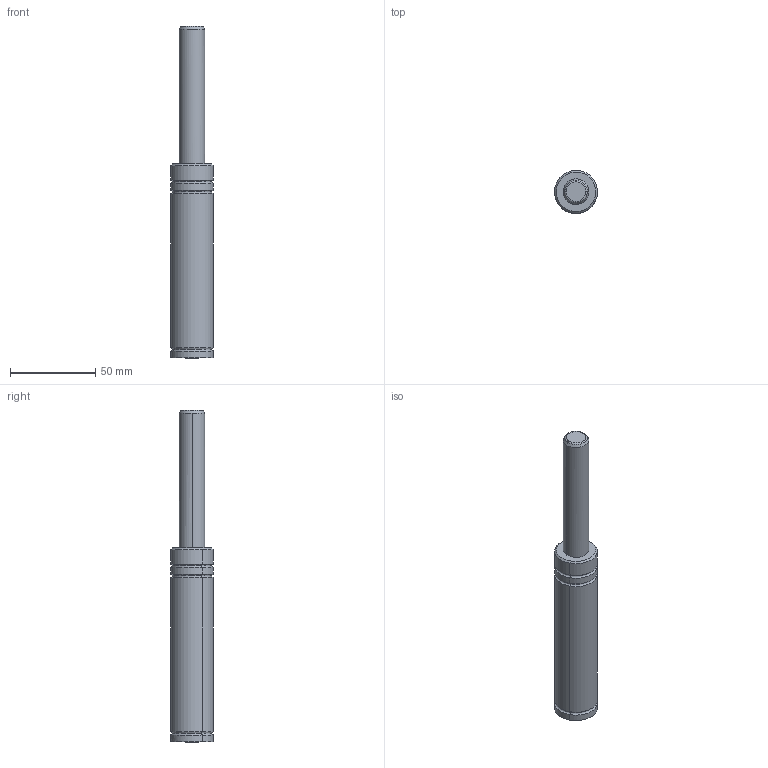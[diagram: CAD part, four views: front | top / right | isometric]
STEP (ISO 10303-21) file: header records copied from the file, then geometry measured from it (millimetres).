
FILE_DESCRIPTION(('CATIA V5 STEP Exchange'),'2;1');
FILE_NAME('W:\CATALOGO GENERAL 2018\FICHEROS CAD\001-MICRO\MICRO 25V\MICRO25Vx80.stp','2021-07-27T06:49:30+00:00',('none'),('none'),'CATIA Version 5 Release 17 (IN-10)','CATIA V5 STEP AP203','none');
FILE_SCHEMA(('CONFIG_CONTROL_DESIGN'));
Length unit declared in the file: millimetre
Products named in the file (1): MICRO25Vx80
Bounding box: 25.2 x 25.19 x 195 mm (x, y, z)
Volume: 70575 mm3; surface area: 14412.7 mm2
Topology: 2 solids, 2 shells, 42 faces, 83 edges, 46 vertices
Faces by surface type: torus 18, cylinder 12, cone 7, plane 5
Entity records: 1135 total; most frequent: CARTESIAN_POINT 282, ORIENTED_EDGE 166, DIRECTION 148, AXIS2_PLACEMENT_3D 94, EDGE_CURVE 83, CIRCLE 57, VERTEX_POINT 46, EDGE_LOOP 43
